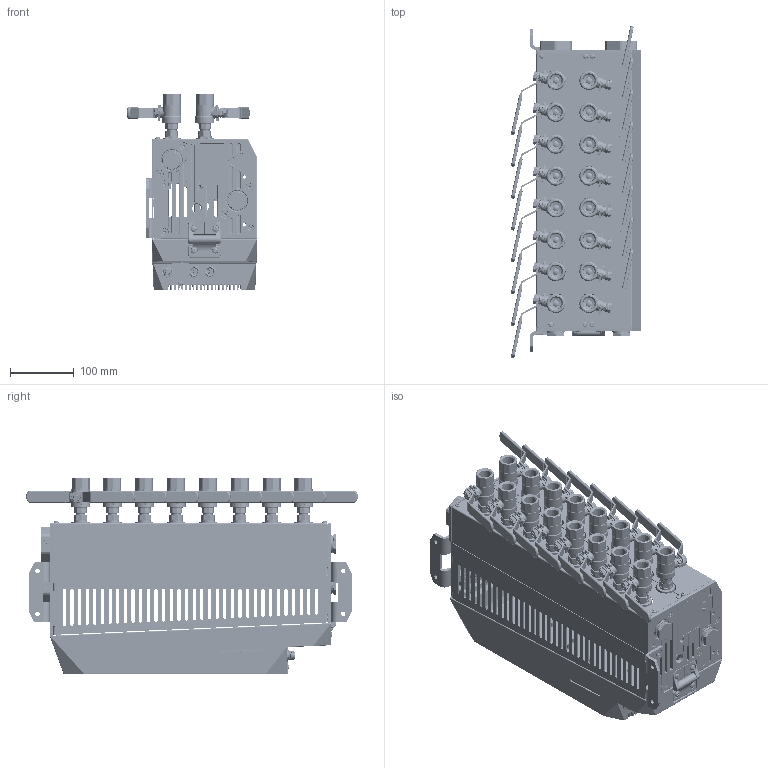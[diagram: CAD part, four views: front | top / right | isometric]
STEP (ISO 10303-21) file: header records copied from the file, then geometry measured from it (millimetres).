
FILE_DESCRIPTION (( 'STEP AP214' ), '1' );
FILE_NAME ('HB-FX1XXR61-8-ZH.STEP', '2026-03-02T08:53:49', ( '' ), ( '' ), 'SwSTEP 2.0', 'SolidWorks 2023', '' );
FILE_SCHEMA (( 'AUTOMOTIVE_DESIGN' ));
Length unit declared in the file: millimetre
Products named in the file (25): KX508-2_3^Kopie von 28706_Kopie von K8534-Hülle Teil2_K8534-Hülle kompl; HB-FX1XXR61-8-ZH; 29669_00; Kopie von K8534-Hülle Teil3^K8534-Hülle kompl_8-FACH-RECHTS HB-Therm; Kopie von Kopie von 29718-X^Kopie von K8534-Hülle Teil3_K8534-Hülle kompl_01-mit Beschriftung; Kopie von 29730^Kopie von K8534-Hülle Teil3_K8534-Hülle kompl_00; Kopie von 29734-X^Kopie von K8534-Hülle Teil3_K8534-Hülle kompl_00; Kopie von K8534-Hülle RECHTS^Kopie von K8534-Hülle Teil3_K8534-Hülle kompl_8-FACH-RECHTS; Kopie von 29720-X^Kopie von K8534-Hülle Teil3_K8534-Hülle kompl_00; Kopie von 29719-X^Kopie von K8534-Hülle Teil3_K8534-Hülle kompl_01-mit Beschriftung; KX508-2_2^Kopie von 28706_Kopie von K8534-Hülle Teil2_K8534-Hülle kompl; Kopie (2) von B3061620^Kopie von K8534-Hülle Teil2_K8534-Hülle kompl_M4x12; 29857_00 - geschlossen; 29788_Geschlossen; KX508-2_1^Kopie von 28706_Kopie von K8534-Hülle Teil2_K8534-Hülle kompl; Kopie von Kopie von 24568^Kopie von K8534-Hülle Teil3_K8534-Hülle kompl_00; Kopie von 28706^Kopie von K8534-Hülle Teil2_K8534-Hülle kompl_180°; 29702_A15x1-A2; Kopie von 29715-X^Kopie von K8534-Hülle Teil2_K8534-Hülle kompl_29715-1; Kopie von 28862^Kopie von K8534-Hülle Teil2_K8534-Hülle kompl_M5x12; Kopie von 29733-X^Kopie von K8534-Hülle Teil2_K8534-Hülle kompl; Kopie von 29827^Kopie von K8534-Hülle Teil2_K8534-Hülle kompl; Kopie von K8534-Hülle Teil2^K8534-Hülle kompl_8-Fach HB-Therm; Kopie von 29714^Kopie von K8534-Hülle Teil2_K8534-Hülle kompl; Kopie von Kopie von 29730^Kopie von K8534-Hülle Teil2_K8534-Hülle kompl_00
Assembly tree (49 placements, depth 4):
  HB-FX1XXR61-8-ZH
    Kopie von K8534-Hülle Teil3^K8534-Hülle kompl_8-FACH-RECHTS HB-Therm
      Kopie von 29734-X^Kopie von K8534-Hülle Teil3_K8534-Hülle kompl_00  x2
      Kopie von 29730^Kopie von K8534-Hülle Teil3_K8534-Hülle kompl_00  x4
      Kopie von K8534-Hülle RECHTS^Kopie von K8534-Hülle Teil3_K8534-Hülle kompl_8-FACH-RECHTS
      Kopie von Kopie von 29718-X^Kopie von K8534-Hülle Teil3_K8534-Hülle kompl_01-mit Beschriftung
      Kopie von 29719-X^Kopie von K8534-Hülle Teil3_K8534-Hülle kompl_01-mit Beschriftung
      Kopie von 29720-X^Kopie von K8534-Hülle Teil3_K8534-Hülle kompl_00
      Kopie von Kopie von 24568^Kopie von K8534-Hülle Teil3_K8534-Hülle kompl_00  x2
    Kopie von K8534-Hülle Teil2^K8534-Hülle kompl_8-Fach HB-Therm
      Kopie von 29715-X^Kopie von K8534-Hülle Teil2_K8534-Hülle kompl_29715-1
      Kopie von 29827^Kopie von K8534-Hülle Teil2_K8534-Hülle kompl  x2
      Kopie von 29714^Kopie von K8534-Hülle Teil2_K8534-Hülle kompl
      Kopie von 28862^Kopie von K8534-Hülle Teil2_K8534-Hülle kompl_M5x12  x4
      Kopie von 28706^Kopie von K8534-Hülle Teil2_K8534-Hülle kompl_180°
        KX508-2_1^Kopie von 28706_Kopie von K8534-Hülle Teil2_K8534-Hülle kompl
        KX508-2_2^Kopie von 28706_Kopie von K8534-Hülle Teil2_K8534-Hülle kompl
        KX508-2_3^Kopie von 28706_Kopie von K8534-Hülle Teil2_K8534-Hülle kompl
      Kopie von Kopie von 29730^Kopie von K8534-Hülle Teil2_K8534-Hülle kompl_00  x2
      Kopie von 29733-X^Kopie von K8534-Hülle Teil2_K8534-Hülle kompl
      Kopie (2) von B3061620^Kopie von K8534-Hülle Teil2_K8534-Hülle kompl_M4x12
    29857_00 - geschlossen  x16
      29788_Geschlossen
      29669_00
      29702_A15x1-A2
Bounding box: 204.11 x 521.24 x 307.8 mm (x, y, z)
Volume: 2259398.9 mm3; surface area: 1485204.2 mm2
Topology: 329 solids, 330 shells, 13109 faces, 31473 edges, 19250 vertices
Faces by surface type: plane 4582, cylinder 3815, cone 1548, torus 1527, bspline 1267, sphere 370
Full cylindrical faces by diameter (mm): 2.5 x22, 3.3 x24, 3.6 x1, 4 x14, 4.2 x5, 4.5 x6, 4.6 x1, 4.9 x6, 5 x36, 5.2 x4, 6 x14, 6.6 x12, 6.8 x2, 7 x18, 7.8 x2, 8 x96, 8.013 x16, 8.3 x1, 8.4 x4, 9.4 x1, 10 x33, 10.2 x1, 10.3 x1, 10.5 x64, 10.55 x1, 10.8 x2, 11.04 x16, 12 x26, 12.1 x10, 12.3 x16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
Entity records: 345337 total; most frequent: CARTESIAN_POINT 103805, ORIENTED_EDGE 35560, DIRECTION 34381, EDGE_CURVE 17780, AXIS2_PLACEMENT_3D 13228, VERTEX_POINT 11265, EDGE_LOOP 9217, FACE_OUTER_BOUND 8162
